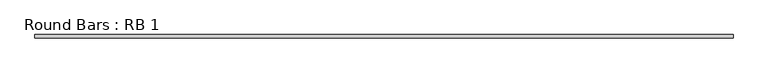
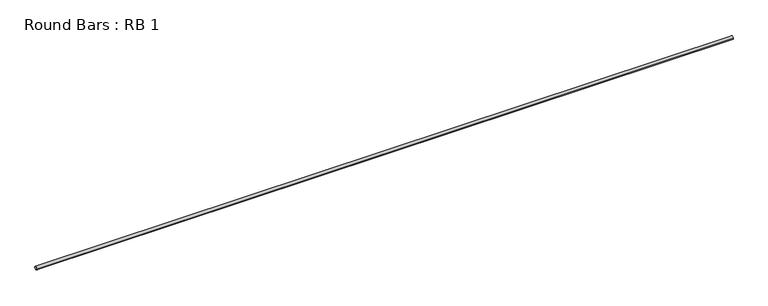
"""IFC4 building model written with IfcOpenShell, lengths in millimetres: beam geometry, Round Bars : RB 1."""

from ifc_helpers import new_model, si_unit, point, frame, origin, origin_2d, place, context, project, spatial, circle_curve, trimmed, segment, composite_curve, outline, extrude, source, transform, mapped, element, save


def round_bars_rb_1_e19388fe(model_context):
    return source(origin(), model_context, "Body", "SweptSolid", [
        extrude(outline(composite_curve([segment(trimmed(circle_curve(origin_2d(), 12.7), [point((-12.7, 0.0))], [point((12.7, 0.0))], False, "CARTESIAN"), True, "CONTINUOUS"), segment(trimmed(circle_curve(origin_2d(), 12.7), [point((12.7, 0.0))], [point((-12.7, 0.0))], False, "CARTESIAN"), True, "CONTINUOUS")], self_intersect=False)), frame((-2580.2243905, 0.0, 0.0), z_axis=(1.0, 0.0, 0.0), x_axis=(0.0, 1.0, 0.0)), (0.0, 0.0, 1.0), 5160.448781),
    ])


if __name__ == "__main__":
    model = new_model("IFC4")
    model_context = context("Model", 3, world=origin())
    ifc_project = project(units=[si_unit("LENGTHUNIT", "METRE", prefix="MILLI")], contexts=[model_context])
    site = spatial("IfcSite", under=ifc_project)
    building = spatial("IfcBuilding", under=site)
    placement = place(None, origin())
    round_bars_rb_1_shape = round_bars_rb_1_e19388fe(model_context)
    element("IfcBeam", 1, ObjectType="Round Bars : RB 1", at=placement, inside=building, context=model_context, shape_type="MappedRepresentation", body=[
        mapped(round_bars_rb_1_shape, transform((0.0, 0.0, 0.0), x_axis=(1.0, 0.0, 0.0), y_axis=(0.0, 1.0, 0.0), z_axis=(0.0, 0.0, 1.0))),
    ])
    save(model, "model.ifc")
